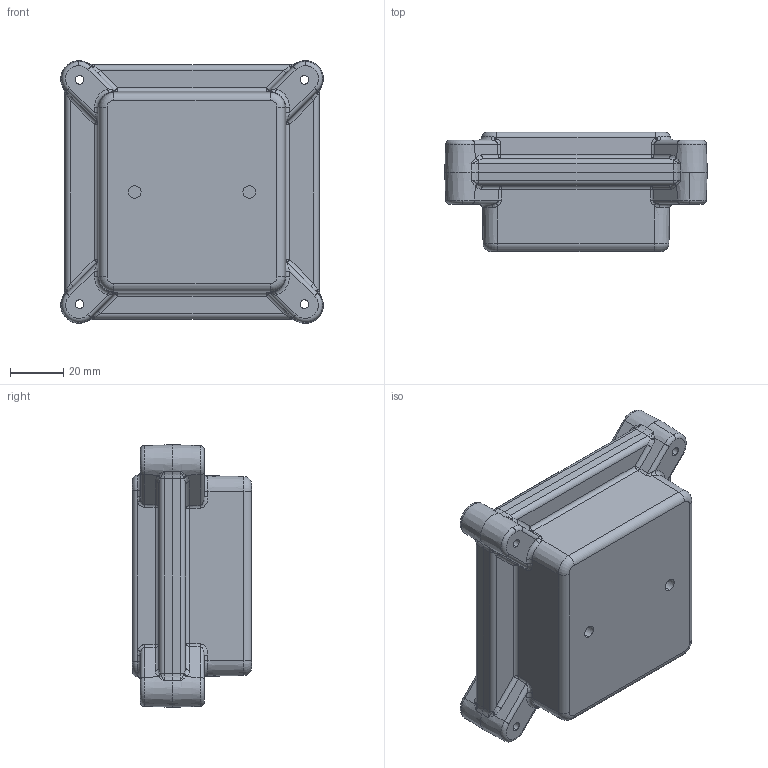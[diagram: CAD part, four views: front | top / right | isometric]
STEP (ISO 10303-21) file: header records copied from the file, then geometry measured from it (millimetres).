
FILE_DESCRIPTION (( 'STEP AP203' ), '1' );
FILE_NAME ('SE-510-0-0.STEP', '2018-10-01T06:57:34', ( '' ), ( '' ), 'SwSTEP 2.0', 'SolidWorks 2018', '' );
FILE_SCHEMA (( 'CONFIG_CONTROL_DESIGN' ));
Length unit declared in the file: millimetre
Products named in the file (3): SE-510-P-2; SE-510-0-0; SE-510-P-1
Assembly tree (2 placements, depth 2):
  SE-510-0-0
    SE-510-P-1
    SE-510-P-2
Bounding box: 99.02 x 44.9 x 99.02 mm (x, y, z)
Volume: 100959.1 mm3; surface area: 69550 mm2
Topology: 2 solids, 2 shells, 705 faces, 1691 edges, 969 vertices
Faces by surface type: cylinder 228, bspline 168, plane 155, cone 78, torus 60, sphere 16
Entity records: 23215 total; most frequent: CARTESIAN_POINT 7902, ORIENTED_EDGE 3294, DIRECTION 3056, EDGE_CURVE 1647, AXIS2_PLACEMENT_3D 1207, VERTEX_POINT 969, EDGE_LOOP 744, FACE_OUTER_BOUND 705
